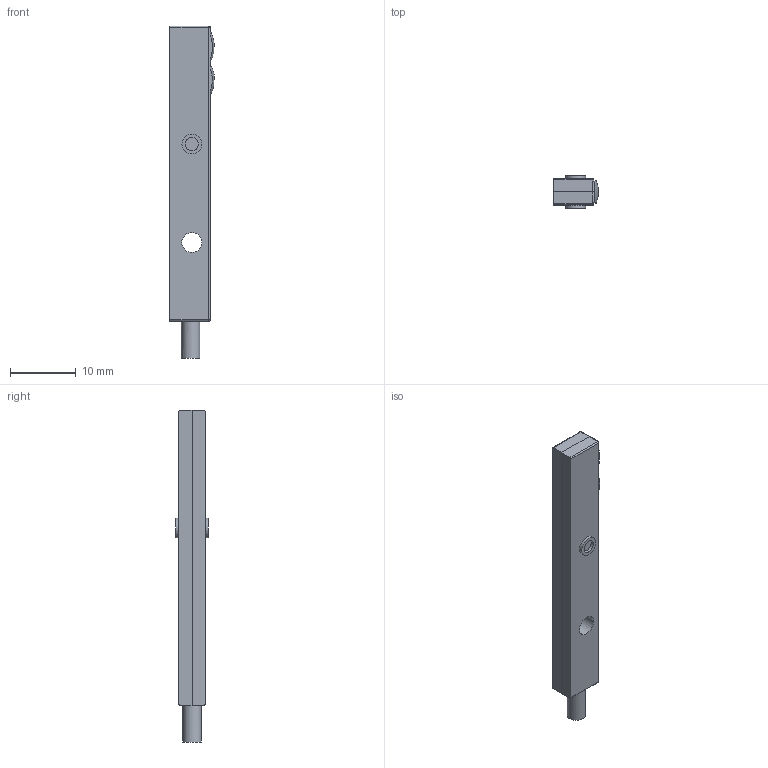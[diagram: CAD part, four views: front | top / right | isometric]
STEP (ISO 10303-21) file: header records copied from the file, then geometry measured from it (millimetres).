
FILE_DESCRIPTION( ( '' ), '1' );
FILE_NAME( 'Z:/bereich/BECH/Services/me_CAD/Solid Edge/Models/Dokumentationen/Opto/FxDK 04/Vereinfachte Modelle/Neutralformate/FxDK 04.stp', '2007-04-13T08:32:23', ( 'Erich Hohloch' ), ( 'Baumer Electric AG' ), 'XStep 1.0', 'Solid Edge', ' ' );
FILE_SCHEMA( ( 'automotive_design' ) );
Length unit declared in the file: millimetre
Products named in the file (1): 1
Bounding box: 6.86 x 5 x 50.6 mm (x, y, z)
Volume: 1128.9 mm3; surface area: 1044.2 mm2
Topology: 1 solids, 1 shells, 41 faces, 94 edges, 57 vertices
Faces by surface type: plane 19, cylinder 16, sphere 6
Full cylindrical faces by diameter (mm): 2 x2, 2.8 x1, 3 x2, 3.05 x1
Entity records: 1409 total; most frequent: DIRECTION 207, CARTESIAN_POINT 173, ORIENTED_EDGE 160, AXIS2_PLACEMENT_3D 85, EDGE_CURVE 80, EDGE_LOOP 53, VERTEX_POINT 51, FACE_OUTER_BOUND 47
